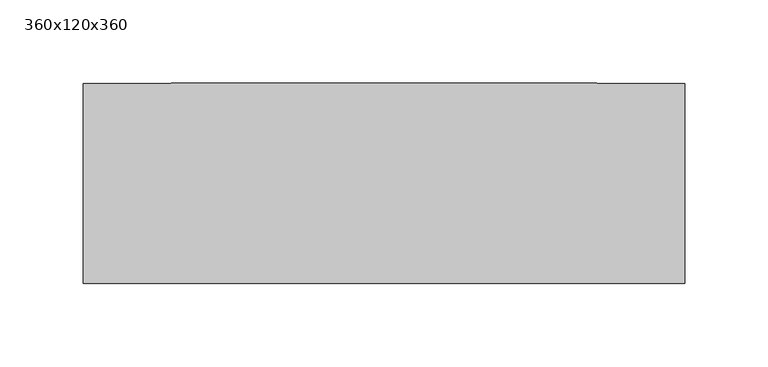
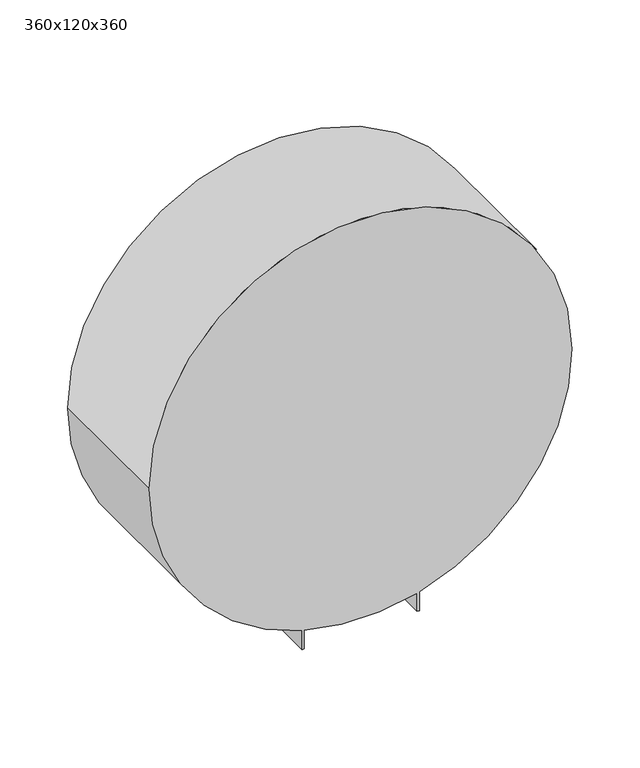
"""IFC4 building model written with IfcOpenShell, lengths in millimetres: furniture geometry, nbl_SanitaryAccessory_Dispenser-Toilet-Roll-Large-1.1 : 360x120x360."""

from ifc_helpers import new_model, si_unit, point, frame, frame_2d, origin, place, context, project, spatial, polyline, circle_curve, trimmed, segment, composite_curve, outline, extrude, source, transform, mapped, element, save


def furniture_360x120x360_56d4da83(model_context):
    return source(origin(), model_context, "Body", "SweptSolid", [
        extrude(outline(composite_curve([segment(polyline([(890.0, 50.0), (907.0838353, 50.0)]), True, "CONTINUOUS"), segment(trimmed(circle_curve(frame_2d((1080.0, 0.0)), 180.0), [point((907.0838353, 50.0))], [point((1080.0, 180.0))], False, "CARTESIAN"), True, "CONTINUOUS"), segment(trimmed(circle_curve(frame_2d((1080.0, 0.0)), 180.0), [point((1080.0, 180.0))], [point((1080.0, -180.0))], False, "CARTESIAN"), True, "CONTINUOUS"), segment(trimmed(circle_curve(frame_2d((1080.0, 0.0)), 180.0), [point((1080.0, -180.0))], [point((907.0838353, -50.0))], False, "CARTESIAN"), True, "CONTINUOUS"), segment(polyline([(907.0838353, -50.0), (890.0, -50.0), (890.0, -48.0), (906.5180125, -48.0)]), True, "CONTINUOUS"), segment(trimmed(circle_curve(frame_2d((1080.0, 0.0)), 180.0), [point((906.5180125, -48.0))], [point((906.5180125, 48.0))], False, "CARTESIAN"), True, "CONTINUOUS"), segment(polyline([(906.5180125, 48.0), (890.0, 48.0), (890.0, 50.0)]), True, "CONTINUOUS")], self_intersect=False)), frame((0.0, -60.0, 0.0), z_axis=(0.0, 1.0, 0.0), x_axis=(0.0, 0.0, 1.0)), (0.0, 0.0, 1.0), 120.0),
    ])


if __name__ == "__main__":
    model = new_model("IFC4")
    model_context = context("Model", 3, world=origin())
    ifc_project = project(units=[si_unit("LENGTHUNIT", "METRE", prefix="MILLI")], contexts=[model_context])
    site = spatial("IfcSite", under=ifc_project)
    building = spatial("IfcBuilding", under=site)
    placement = place(None, origin())
    furniture_360x120x360_shape = furniture_360x120x360_56d4da83(model_context)
    element("IfcFurniture", 1, ObjectType="nbl_SanitaryAccessory_Dispenser-Toilet-Roll-Large-1.1 : 360x120x360", at=placement, inside=building, context=model_context, shape_type="MappedRepresentation", body=[
        mapped(furniture_360x120x360_shape, transform((0.0, 0.0, 0.0), x_axis=(1.0, 0.0, 0.0), y_axis=(0.0, 1.0, 0.0), z_axis=(0.0, 0.0, 1.0))),
    ])
    save(model, "model.ifc")
